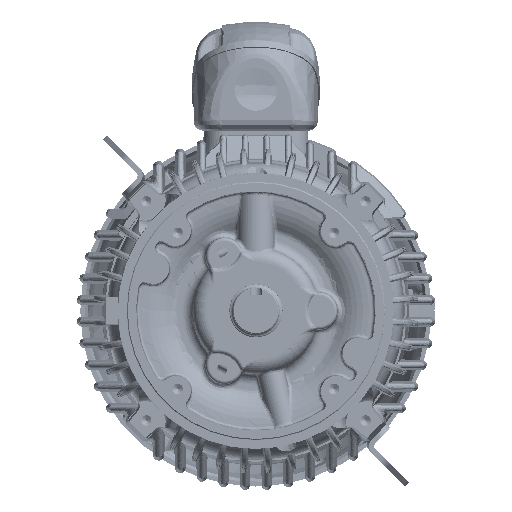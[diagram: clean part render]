
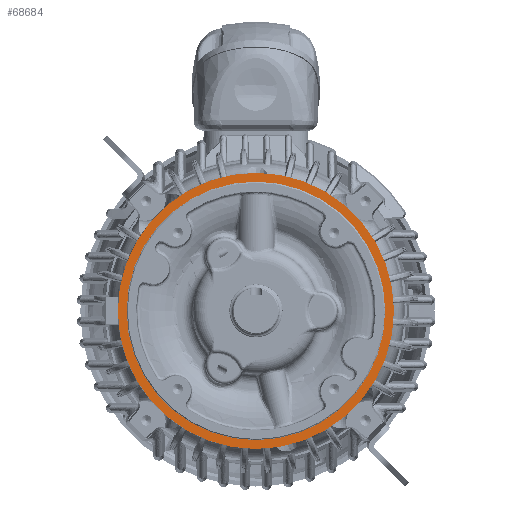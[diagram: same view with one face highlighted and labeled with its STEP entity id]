
A CAD part, front view. The second image highlights one B-rep face of the part: STEP entity #68684.
In plain terms, the highlighted planar face has unit normal (0, -1, 0) as drawn and (0, 0, -1) by its records, which use the part's own axes.
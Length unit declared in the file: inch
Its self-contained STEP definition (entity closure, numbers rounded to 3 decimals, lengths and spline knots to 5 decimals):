
#46289=CARTESIAN_POINT('',(0.,0.,-4.482));
#46290=DIRECTION('',(0.,0.,1.));
#46291=DIRECTION('',(0.,1.,0.));
#46292=AXIS2_PLACEMENT_3D('',#46289,#46290,#46291);
#46304=CARTESIAN_POINT('',(0.,0.,-4.482));
#46305=DIRECTION('',(0.,0.,-1.));
#46306=DIRECTION('',(0.,1.,0.));
#46307=AXIS2_PLACEMENT_3D('',#46304,#46305,#46306);
#46309=CARTESIAN_POINT('',(0.,0.,-4.482));
#46310=DIRECTION('',(0.,0.,1.));
#46311=DIRECTION('',(0.,1.,0.));
#46312=AXIS2_PLACEMENT_3D('',#46309,#46310,#46311);
#46314=CARTESIAN_POINT('',(0.,0.,-4.482));
#46315=DIRECTION('',(0.,0.,-1.));
#46316=DIRECTION('',(0.,1.,0.));
#46317=AXIS2_PLACEMENT_3D('',#46314,#46315,#46316);
#62860=CARTESIAN_POINT('',(0.,5.266,-4.482));
#62862=VERTEX_POINT('',#62860);
#62868=CARTESIAN_POINT('',(0.,-5.266,-4.482));
#62870=VERTEX_POINT('',#62868);
#63380=CARTESIAN_POINT('',(0.,5.625,-4.482));
#63381=CARTESIAN_POINT('',(0.,-5.625,-4.482));
#63382=VERTEX_POINT('',#63380);
#63383=VERTEX_POINT('',#63381);
#68670=CARTESIAN_POINT('',(0.,0.,-4.482));
#68671=DIRECTION('',(0.,0.,1.));
#68672=DIRECTION('',(0.,1.,0.));
#68673=AXIS2_PLACEMENT_3D('',#68670,#68671,#68672);
#68674=PLANE('',#68673);
#68675=ORIENTED_EDGE('',*,*,#63487,.T.);
#68677=ORIENTED_EDGE('',*,*,#68676,.F.);
#68678=EDGE_LOOP('',(#68675,#68677));
#68679=FACE_OUTER_BOUND('',#68678,.F.);
#68680=ORIENTED_EDGE('',*,*,#68665,.T.);
#68681=ORIENTED_EDGE('',*,*,#68649,.F.);
#68682=EDGE_LOOP('',(#68680,#68681));
#68683=FACE_BOUND('',#68682,.F.);
#68684=ADVANCED_FACE('',(#68679,#68683),#68674,.F.);
#46293=CIRCLE('',#46292,5.266);
#46308=CIRCLE('',#46307,5.266);
#46313=CIRCLE('',#46312,5.625);
#46318=CIRCLE('',#46317,5.625);
#63487=EDGE_CURVE('',#63382,#63383,#46313,.T.);
#68649=EDGE_CURVE('',#62862,#62870,#46293,.T.);
#68665=EDGE_CURVE('',#62862,#62870,#46308,.T.);
#68676=EDGE_CURVE('',#63382,#63383,#46318,.T.);
